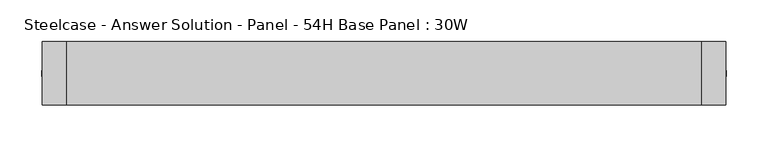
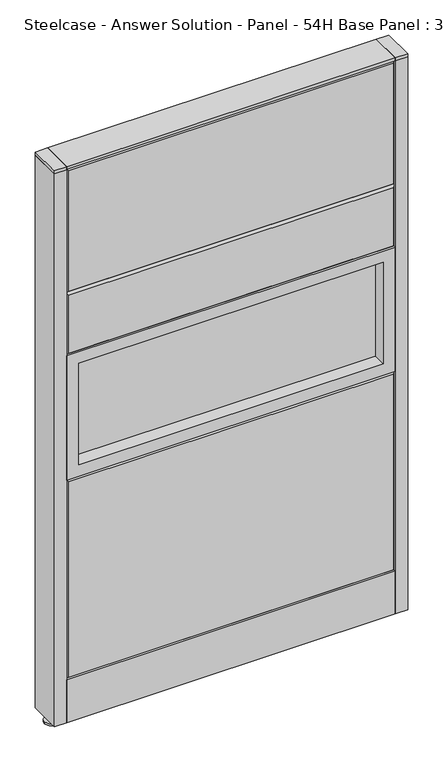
"""IFC4 building model written with IfcOpenShell, lengths in millimetres: furniture geometry, Steelcase - Answer Solution - Panel - 54H Base Panel : 30W."""

from ifc_helpers import new_model, si_unit, point, frame, frame_2d, origin, place, context, project, spatial, polyline, circle_curve, trimmed, segment, composite_curve, outline, extrude, faceted_brep, source, transform, mapped, element, save


def steelcase_answer_solution_panel_54h_base_panel_30w_ad08d875(model_context):
    return source(origin(), model_context, "Body", "SolidModel", [
        extrude(outline(composite_curve([segment(trimmed(circle_curve(frame_2d((395.224, 0.0320214)), 5.08), [point((400.304, 0.0320214))], [point((390.144, 0.0320214))], False, "CARTESIAN"), True, "CONTINUOUS"), segment(trimmed(circle_curve(frame_2d((395.224, 0.0320214)), 5.08), [point((390.144, 0.0320214))], [point((400.304, 0.0320214))], False, "CARTESIAN"), True, "CONTINUOUS")], self_intersect=False)), frame((0.0, 0.0, 5.0799671), z_axis=(0.0, 0.0, 1.0), x_axis=(1.0, 0.0, 0.0)), (0.0, 0.0, 1.0), 10.414),
        extrude(outline(composite_curve([segment(trimmed(circle_curve(frame_2d((395.224, 0.0320214)), 15.24), [point((410.464, 0.0320214))], [point((379.984, 0.0320214))], False, "CARTESIAN"), True, "CONTINUOUS"), segment(trimmed(circle_curve(frame_2d((395.224, 0.0320214)), 15.24), [point((379.984, 0.0320214))], [point((410.464, 0.0320214))], False, "CARTESIAN"), True, "CONTINUOUS")], self_intersect=False)), frame((0.0, 0.0, -3.29e-05), z_axis=(0.0, 0.0, 1.0), x_axis=(1.0, 0.0, 0.0)), (0.0, 0.0, 1.0), 5.08),
        extrude(outline(polyline([(409.575, 38.1320408), (409.575, -38.0679592), (381.0, -38.0679592), (381.0, 38.1320408), (409.575, 38.1320408)])), frame((0.0, 0.0, 1370.6348), z_axis=(0.0, 0.0, 1.0), x_axis=(1.0, 0.0, 0.0)), (0.0, 0.0, 1.0), 7.3151671),
        extrude(outline(polyline([(409.575, 38.1320408), (409.575, -38.0679592), (381.0, -38.0679592), (381.0, 38.1320408), (409.575, 38.1320408)])), frame((0.0, 0.0, 15.4939671), z_axis=(0.0, 0.0, 1.0), x_axis=(1.0, 0.0, 0.0)), (0.0, 0.0, 1.0), 1355.1408329),
        extrude(outline(composite_curve([segment(trimmed(circle_curve(frame_2d((-395.224, 0.0320214)), 5.08), [point((-400.304, 0.0320214))], [point((-390.144, 0.0320214))], False, "CARTESIAN"), True, "CONTINUOUS"), segment(trimmed(circle_curve(frame_2d((-395.224, 0.0320214)), 5.08), [point((-390.144, 0.0320214))], [point((-400.304, 0.0320214))], False, "CARTESIAN"), True, "CONTINUOUS")], self_intersect=False)), frame((0.0, 0.0, 5.0799671), z_axis=(0.0, 0.0, 1.0), x_axis=(1.0, 0.0, 0.0)), (0.0, 0.0, 1.0), 10.414),
        extrude(outline(composite_curve([segment(trimmed(circle_curve(frame_2d((-395.224, 0.0320214)), 15.24), [point((-410.464, 0.0320214))], [point((-379.984, 0.0320214))], False, "CARTESIAN"), True, "CONTINUOUS"), segment(trimmed(circle_curve(frame_2d((-395.224, 0.0320214)), 15.24), [point((-379.984, 0.0320214))], [point((-410.464, 0.0320214))], False, "CARTESIAN"), True, "CONTINUOUS")], self_intersect=False)), frame((0.0, 0.0, -3.29e-05), z_axis=(0.0, 0.0, 1.0), x_axis=(1.0, 0.0, 0.0)), (0.0, 0.0, 1.0), 5.08),
        extrude(outline(polyline([(-409.575, 38.1320408), (-381.0, 38.1320408), (-381.0, -38.0679592), (-409.575, -38.0679592), (-409.575, 38.1320408)])), frame((0.0, 0.0, 1370.6348), z_axis=(0.0, 0.0, 1.0), x_axis=(1.0, 0.0, 0.0)), (0.0, 0.0, 1.0), 7.3151671),
        extrude(outline(polyline([(-409.575, 38.1320408), (-381.0, 38.1320408), (-381.0, -38.0679592), (-409.575, -38.0679592), (-409.575, 38.1320408)])), frame((0.0, 0.0, 15.4939671), z_axis=(0.0, 0.0, 1.0), x_axis=(1.0, 0.0, 0.0)), (0.0, 0.0, 1.0), 1355.1408329),
        extrude(outline(polyline([(-353.06, 6.346049), (353.06, 6.346049), (353.06, -6.353951), (-353.06, -6.353951), (-353.06, 6.346049)])), frame((0.0, 0.0, 637.54), z_axis=(0.0, 0.0, 1.0), x_axis=(1.0, 0.0, 0.0)), (0.0, 0.0, 1.0), 248.92),
        extrude(outline(polyline([(914.4, -381.0), (609.6, -381.0), (609.6, 381.0), (914.4, 381.0), (914.4, -381.0)]), holes=[polyline([(886.46, -353.06), (886.46, 353.06), (637.54, 353.06), (637.54, -353.06), (886.46, -353.06)])]), frame((0.0, -38.103951, 0.0), z_axis=(0.0, 1.0, 0.0), x_axis=(0.0, 0.0, 1.0)), (0.0, 0.0, 1.0), 76.2),
        faceted_brep([(-376.174, 38.1635011, 1366.774), (376.174, 38.1635011, 1366.774), (376.174, 38.1635011, 1071.626), (-376.174, 38.1635011, 1071.626), (-381.0, 33.3375011, 1371.6), (-381.0, 33.3375011, 1066.8), (381.0, 33.3375011, 1066.8), (381.0, 33.3375011, 1371.6)], [[[0, 1, 2, 3]], [[4, 5, 6, 7]], [[4, 7, 1, 0]], [[7, 6, 2, 1]], [[6, 5, 3, 2]], [[5, 4, 0, 3]]]),
        faceted_brep([(-376.174, 38.1635011, 1061.974), (376.174, 38.1635011, 1061.974), (376.174, 38.1635011, 919.226), (-376.174, 38.1635011, 919.226), (-381.0, 33.3375011, 1066.8), (-381.0, 33.3375011, 914.4), (381.0, 33.3375011, 914.4), (381.0, 33.3375011, 1066.8)], [[[0, 1, 2, 3]], [[4, 5, 6, 7]], [[4, 7, 1, 0]], [[7, 6, 2, 1]], [[6, 5, 3, 2]], [[5, 4, 0, 3]]]),
        faceted_brep([(-376.174, 38.1635011, 604.774), (376.174, 38.1635011, 604.774), (376.174, 38.1635011, 125.476), (-376.174, 38.1635011, 125.476), (-381.0, 33.3375011, 609.6), (-381.0, 33.3375011, 120.65), (381.0, 33.3375011, 120.65), (381.0, 33.3375011, 609.6)], [[[0, 1, 2, 3]], [[4, 5, 6, 7]], [[4, 7, 1, 0]], [[7, 6, 2, 1]], [[6, 5, 3, 2]], [[5, 4, 0, 3]]]),
        extrude(outline(polyline([(353.06, -6.346049), (-353.06, -6.346049), (-353.06, 6.353951), (353.06, 6.353951), (353.06, -6.346049)])), frame((0.0, 0.0, 637.54), z_axis=(0.0, 0.0, 1.0), x_axis=(1.0, 0.0, 0.0)), (0.0, 0.0, 1.0), 248.92),
        extrude(outline(polyline([(914.4, 381.0), (914.4, -381.0), (609.6, -381.0), (609.6, 381.0), (914.4, 381.0)]), holes=[polyline([(886.46, 353.06), (637.54, 353.06), (637.54, -353.06), (886.46, -353.06), (886.46, 353.06)])]), frame((0.0, -38.096049, 0.0), z_axis=(0.0, 1.0, 0.0), x_axis=(0.0, 0.0, 1.0)), (0.0, 0.0, 1.0), 76.2),
        faceted_brep([(376.174, -38.1635011, 1366.774), (-376.174, -38.1635011, 1366.774), (-376.174, -38.1635011, 1071.626), (376.174, -38.1635011, 1071.626), (381.0, -33.3375011, 1371.6), (381.0, -33.3375011, 1066.8), (-381.0, -33.3375011, 1066.8), (-381.0, -33.3375011, 1371.6)], [[[0, 1, 2, 3]], [[4, 5, 6, 7]], [[4, 7, 1, 0]], [[7, 6, 2, 1]], [[6, 5, 3, 2]], [[5, 4, 0, 3]]]),
        faceted_brep([(376.174, -38.1635011, 1061.974), (-376.174, -38.1635011, 1061.974), (-376.174, -38.1635011, 919.226), (376.174, -38.1635011, 919.226), (381.0, -33.3375011, 1066.8), (381.0, -33.3375011, 914.4), (-381.0, -33.3375011, 914.4), (-381.0, -33.3375011, 1066.8)], [[[0, 1, 2, 3]], [[4, 5, 6, 7]], [[4, 7, 1, 0]], [[7, 6, 2, 1]], [[6, 5, 3, 2]], [[5, 4, 0, 3]]]),
        faceted_brep([(376.174, -38.1635011, 604.774), (-376.174, -38.1635011, 604.774), (-376.174, -38.1635011, 125.476), (376.174, -38.1635011, 125.476), (381.0, -33.3375011, 609.6), (381.0, -33.3375011, 120.65), (-381.0, -33.3375011, 120.65), (-381.0, -33.3375011, 609.6)], [[[0, 1, 2, 3]], [[4, 5, 6, 7]], [[4, 7, 1, 0]], [[7, 6, 2, 1]], [[6, 5, 3, 2]], [[5, 4, 0, 3]]]),
        extrude(outline(polyline([(381.0, 38.1000194), (381.0, -38.1000194), (-381.0, -38.1000194), (-381.0, 38.1000194), (381.0, 38.1000194)])), frame((0.0, 0.0, 1371.6), z_axis=(0.0, 0.0, 1.0), x_axis=(1.0, 0.0, 0.0)), (0.0, 0.0, 1.0), 6.35),
        extrude(outline(polyline([(25.4000011, 119.8575157), (25.4000011, 120.65), (38.1000194, 120.65), (38.1000194, 15.494), (37.3075215, 15.494), (37.3075215, 119.8575157), (25.4000011, 119.8575157)])), frame((-381.0, 0.0, 0.0), z_axis=(1.0, 0.0, 0.0), x_axis=(0.0, 1.0, 0.0)), (0.0, 0.0, 1.0), 762.0),
        extrude(outline(polyline([(-25.4000011, 119.8575157), (-37.3075215, 119.8575157), (-37.3075215, 15.494), (-38.1000194, 15.494), (-38.1000194, 120.65), (-25.4000011, 120.65), (-25.4000011, 119.8575157)])), frame((-381.0, 0.0, 0.0), z_axis=(1.0, 0.0, 0.0), x_axis=(0.0, 1.0, 0.0)), (0.0, 0.0, 1.0), 762.0),
    ])


if __name__ == "__main__":
    model = new_model("IFC4")
    model_context = context("Model", 3, world=origin())
    ifc_project = project(units=[si_unit("LENGTHUNIT", "METRE", prefix="MILLI")], contexts=[model_context])
    site = spatial("IfcSite", under=ifc_project)
    building = spatial("IfcBuilding", under=site)
    placement = place(None, origin())
    steelcase_answer_solution_panel_54h_base_panel_30w_shape = steelcase_answer_solution_panel_54h_base_panel_30w_ad08d875(model_context)
    element("IfcFurniture", 1, ObjectType="Steelcase - Answer Solution - Panel - 54H Base Panel : 30W", at=placement, inside=building, context=model_context, shape_type="MappedRepresentation", body=[
        mapped(steelcase_answer_solution_panel_54h_base_panel_30w_shape, transform((0.0, 0.0, 0.0), x_axis=(1.0, 0.0, 0.0), y_axis=(0.0, 1.0, 0.0), z_axis=(0.0, 0.0, 1.0))),
    ])
    save(model, "model.ifc")
